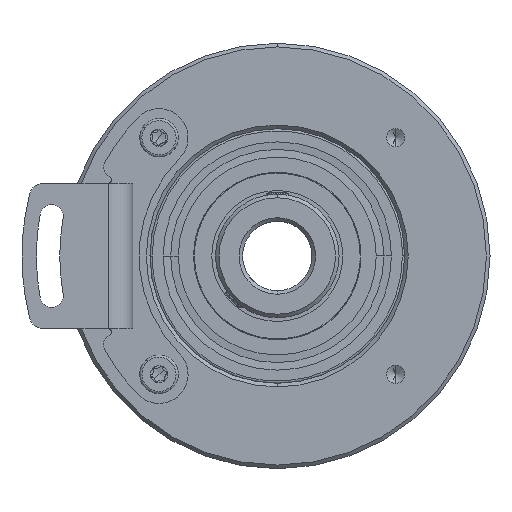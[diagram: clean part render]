
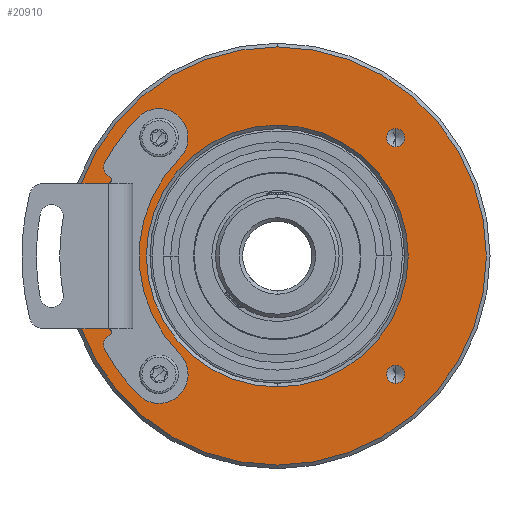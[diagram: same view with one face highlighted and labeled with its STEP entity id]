
A CAD part, front view. The second image highlights one B-rep face of the part: STEP entity #20910.
In plain terms, the highlighted planar face has unit normal (0, -1, 0).
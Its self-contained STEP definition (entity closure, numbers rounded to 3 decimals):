
#191 = AXIS2_PLACEMENT_3D ( 'NONE', #19658, #2818, #16038 ) ;
#400 = AXIS2_PLACEMENT_3D ( 'NONE', #21268, #2953, #11338 ) ;
#565 = DIRECTION ( 'NONE',  ( 0., 1., 0. ) ) ;
#751 = VERTEX_POINT ( 'NONE', #7982 ) ;
#906 = CIRCLE ( 'NONE', #5101, 1.25 ) ;
#1017 = CARTESIAN_POINT ( 'NONE',  ( 0., 0., -28.75 ) ) ;
#1298 = AXIS2_PLACEMENT_3D ( 'NONE', #11164, #9421, #6131 ) ;
#1494 = EDGE_CURVE ( 'NONE', #16067, #12151, #10751, .T. ) ;
#1740 = DIRECTION ( 'NONE',  ( 0., -1., 0. ) ) ;
#1794 = ORIENTED_EDGE ( 'NONE', *, *, #14819, .F. ) ;
#1800 = EDGE_LOOP ( 'NONE', ( #1794, #2398 ) ) ;
#2001 = ORIENTED_EDGE ( 'NONE', *, *, #3626, .T. ) ;
#2250 = AXIS2_PLACEMENT_3D ( 'NONE', #14719, #14640, #13132 ) ;
#2398 = ORIENTED_EDGE ( 'NONE', *, *, #21071, .F. ) ;
#2453 = EDGE_CURVE ( 'NONE', #4773, #12416, #13790, .T. ) ;
#2580 = CIRCLE ( 'NONE', #400, 1.25 ) ;
#2718 = AXIS2_PLACEMENT_3D ( 'NONE', #9582, #14295, #2864 ) ;
#2720 = ORIENTED_EDGE ( 'NONE', *, *, #10079, .F. ) ;
#2818 = DIRECTION ( 'NONE',  ( 0., -1., 0. ) ) ;
#2856 = FACE_BOUND ( 'NONE', #16714, .T. ) ;
#2864 = DIRECTION ( 'NONE',  ( 0., 0., -1. ) ) ;
#2953 = DIRECTION ( 'NONE',  ( 0., -1., 0. ) ) ;
#3017 = DIRECTION ( 'NONE',  ( 0., -1., 0. ) ) ;
#3020 = EDGE_CURVE ( 'NONE', #12416, #4773, #20370, .T. ) ;
#3086 = EDGE_CURVE ( 'NONE', #751, #7890, #12581, .T. ) ;
#3471 = CARTESIAN_POINT ( 'NONE',  ( 0., 0., 0. ) ) ;
#3599 = EDGE_LOOP ( 'NONE', ( #20481, #10042 ) ) ;
#3626 = EDGE_CURVE ( 'NONE', #7890, #751, #8366, .T. ) ;
#3905 = FACE_BOUND ( 'NONE', #11063, .T. ) ;
#4075 = CARTESIAN_POINT ( 'NONE',  ( -16.263, 0., -17.513 ) ) ;
#4354 = CIRCLE ( 'NONE', #1298, 28.75 ) ;
#4773 = VERTEX_POINT ( 'NONE', #17133 ) ;
#4839 = AXIS2_PLACEMENT_3D ( 'NONE', #5493, #565, #12071 ) ;
#4985 = DIRECTION ( 'NONE',  ( 0., 0., -1. ) ) ;
#5101 = AXIS2_PLACEMENT_3D ( 'NONE', #19034, #20693, #12418 ) ;
#5105 = CARTESIAN_POINT ( 'NONE',  ( 16.263, 0., 15.013 ) ) ;
#5493 = CARTESIAN_POINT ( 'NONE',  ( 0., 0., 0. ) ) ;
#6131 = DIRECTION ( 'NONE',  ( 0., 0., -1. ) ) ;
#6471 = CARTESIAN_POINT ( 'NONE',  ( -16.263, 0., 16.263 ) ) ;
#6810 = AXIS2_PLACEMENT_3D ( 'NONE', #9791, #3017, #11322 ) ;
#7003 = VERTEX_POINT ( 'NONE', #13987 ) ;
#7450 = CARTESIAN_POINT ( 'NONE',  ( -16.263, 0., -16.263 ) ) ;
#7890 = VERTEX_POINT ( 'NONE', #13494 ) ;
#7982 = CARTESIAN_POINT ( 'NONE',  ( 0., 0., 18. ) ) ;
#8087 = VERTEX_POINT ( 'NONE', #11171 ) ;
#8192 = CARTESIAN_POINT ( 'NONE',  ( 16.263, 0., -17.513 ) ) ;
#8352 = FACE_BOUND ( 'NONE', #13971, .T. ) ;
#8366 = CIRCLE ( 'NONE', #4839, 18. ) ;
#8372 = FACE_BOUND ( 'NONE', #1800, .T. ) ;
#9159 = CIRCLE ( 'NONE', #17006, 1.25 ) ;
#9421 = DIRECTION ( 'NONE',  ( 0., -1., 0. ) ) ;
#9582 = CARTESIAN_POINT ( 'NONE',  ( 0., 0., 0. ) ) ;
#9791 = CARTESIAN_POINT ( 'NONE',  ( -16.263, 0., 16.263 ) ) ;
#10042 = ORIENTED_EDGE ( 'NONE', *, *, #12597, .T. ) ;
#10079 = EDGE_CURVE ( 'NONE', #13994, #19684, #906, .T. ) ;
#10329 = EDGE_LOOP ( 'NONE', ( #2001, #11687 ) ) ;
#10626 = EDGE_CURVE ( 'NONE', #12151, #16067, #19367, .T. ) ;
#10751 = CIRCLE ( 'NONE', #10889, 1.25 ) ;
#10836 = CIRCLE ( 'NONE', #2250, 28.75 ) ;
#10884 = DIRECTION ( 'NONE',  ( 0., -1., 0. ) ) ;
#10889 = AXIS2_PLACEMENT_3D ( 'NONE', #6471, #16417, #12885 ) ;
#11063 = EDGE_LOOP ( 'NONE', ( #2720, #14285 ) ) ;
#11110 = CIRCLE ( 'NONE', #13470, 1.25 ) ;
#11164 = CARTESIAN_POINT ( 'NONE',  ( 0., 0., 0. ) ) ;
#11171 = CARTESIAN_POINT ( 'NONE',  ( 0., 0., 28.75 ) ) ;
#11322 = DIRECTION ( 'NONE',  ( 0., 0., -1. ) ) ;
#11338 = DIRECTION ( 'NONE',  ( 0., 0., -1. ) ) ;
#11687 = ORIENTED_EDGE ( 'NONE', *, *, #3086, .T. ) ;
#11857 = CARTESIAN_POINT ( 'NONE',  ( 16.263, 0., 16.263 ) ) ;
#12071 = DIRECTION ( 'NONE',  ( 0., 0., -1. ) ) ;
#12151 = VERTEX_POINT ( 'NONE', #20332 ) ;
#12239 = EDGE_CURVE ( 'NONE', #8087, #13268, #4354, .T. ) ;
#12258 = FACE_OUTER_BOUND ( 'NONE', #3599, .T. ) ;
#12311 = ORIENTED_EDGE ( 'NONE', *, *, #2453, .F. ) ;
#12416 = VERTEX_POINT ( 'NONE', #4075 ) ;
#12418 = DIRECTION ( 'NONE',  ( 0., 0., -1. ) ) ;
#12581 = CIRCLE ( 'NONE', #2718, 18. ) ;
#12597 = EDGE_CURVE ( 'NONE', #13268, #8087, #10836, .T. ) ;
#12885 = DIRECTION ( 'NONE',  ( 0., 0., -1. ) ) ;
#13132 = DIRECTION ( 'NONE',  ( 0., 0., -1. ) ) ;
#13268 = VERTEX_POINT ( 'NONE', #1017 ) ;
#13395 = AXIS2_PLACEMENT_3D ( 'NONE', #3471, #1740, #15106 ) ;
#13470 = AXIS2_PLACEMENT_3D ( 'NONE', #11857, #15026, #4985 ) ;
#13494 = CARTESIAN_POINT ( 'NONE',  ( 0., 0., -18. ) ) ;
#13790 = CIRCLE ( 'NONE', #191, 1.25 ) ;
#13865 = EDGE_CURVE ( 'NONE', #19684, #13994, #9159, .T. ) ;
#13971 = EDGE_LOOP ( 'NONE', ( #18781, #15116 ) ) ;
#13987 = CARTESIAN_POINT ( 'NONE',  ( 16.263, 0., 17.513 ) ) ;
#13994 = VERTEX_POINT ( 'NONE', #8192 ) ;
#14285 = ORIENTED_EDGE ( 'NONE', *, *, #13865, .F. ) ;
#14295 = DIRECTION ( 'NONE',  ( 0., 1., 0. ) ) ;
#14307 = CARTESIAN_POINT ( 'NONE',  ( 16.263, 0., -16.263 ) ) ;
#14640 = DIRECTION ( 'NONE',  ( 0., -1., 0. ) ) ;
#14719 = CARTESIAN_POINT ( 'NONE',  ( 0., 0., 0. ) ) ;
#14819 = EDGE_CURVE ( 'NONE', #15554, #7003, #11110, .T. ) ;
#15006 = AXIS2_PLACEMENT_3D ( 'NONE', #7450, #20763, #17472 ) ;
#15026 = DIRECTION ( 'NONE',  ( 0., -1., 0. ) ) ;
#15106 = DIRECTION ( 'NONE',  ( 0., 0., -1. ) ) ;
#15116 = ORIENTED_EDGE ( 'NONE', *, *, #10626, .F. ) ;
#15554 = VERTEX_POINT ( 'NONE', #5105 ) ;
#16038 = DIRECTION ( 'NONE',  ( 0., 0., -1. ) ) ;
#16067 = VERTEX_POINT ( 'NONE', #18186 ) ;
#16417 = DIRECTION ( 'NONE',  ( 0., -1., 0. ) ) ;
#16631 = PLANE ( 'NONE',  #13395 ) ;
#16643 = FACE_BOUND ( 'NONE', #10329, .T. ) ;
#16714 = EDGE_LOOP ( 'NONE', ( #19796, #12311 ) ) ;
#17006 = AXIS2_PLACEMENT_3D ( 'NONE', #14307, #10884, #17548 ) ;
#17133 = CARTESIAN_POINT ( 'NONE',  ( -16.263, 0., -15.013 ) ) ;
#17472 = DIRECTION ( 'NONE',  ( 0., 0., -1. ) ) ;
#17548 = DIRECTION ( 'NONE',  ( 0., 0., -1. ) ) ;
#18186 = CARTESIAN_POINT ( 'NONE',  ( -16.263, 0., 15.013 ) ) ;
#18781 = ORIENTED_EDGE ( 'NONE', *, *, #1494, .F. ) ;
#19034 = CARTESIAN_POINT ( 'NONE',  ( 16.263, 0., -16.263 ) ) ;
#19367 = CIRCLE ( 'NONE', #6810, 1.25 ) ;
#19658 = CARTESIAN_POINT ( 'NONE',  ( -16.263, 0., -16.263 ) ) ;
#19684 = VERTEX_POINT ( 'NONE', #20462 ) ;
#19796 = ORIENTED_EDGE ( 'NONE', *, *, #3020, .F. ) ;
#20332 = CARTESIAN_POINT ( 'NONE',  ( -16.263, 0., 17.513 ) ) ;
#20370 = CIRCLE ( 'NONE', #15006, 1.25 ) ;
#20462 = CARTESIAN_POINT ( 'NONE',  ( 16.263, 0., -15.013 ) ) ;
#20481 = ORIENTED_EDGE ( 'NONE', *, *, #12239, .T. ) ;
#20693 = DIRECTION ( 'NONE',  ( 0., -1., 0. ) ) ;
#20763 = DIRECTION ( 'NONE',  ( 0., -1., 0. ) ) ;
#20910 = ADVANCED_FACE ( 'NONE', ( #16643, #8352, #8372, #2856, #3905, #12258 ), #16631, .T. ) ;
#21071 = EDGE_CURVE ( 'NONE', #7003, #15554, #2580, .T. ) ;
#21268 = CARTESIAN_POINT ( 'NONE',  ( 16.263, 0., 16.263 ) ) ;
